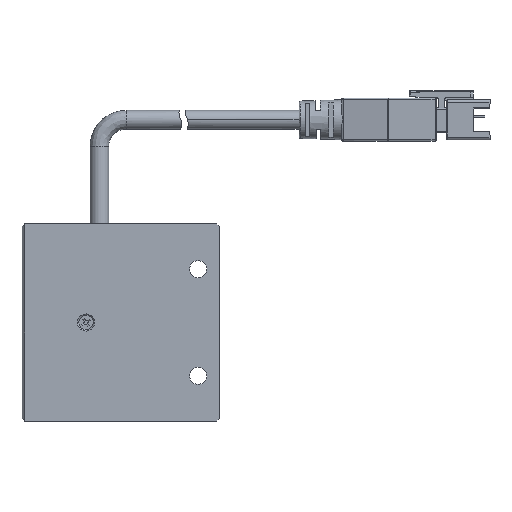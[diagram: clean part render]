
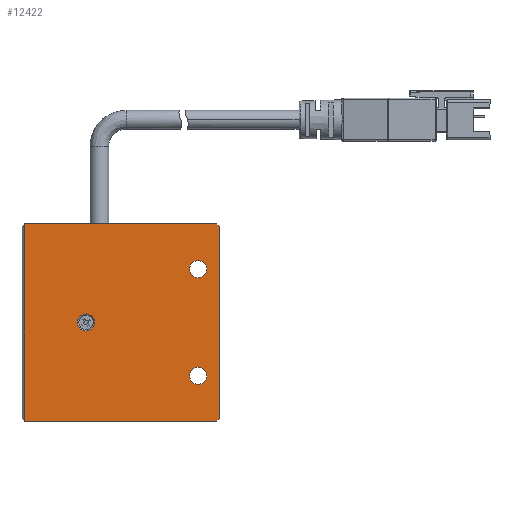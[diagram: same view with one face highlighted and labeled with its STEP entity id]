
A CAD part, top view. The second image highlights one B-rep face of the part: STEP entity #12422.
In plain terms, the highlighted planar face has unit normal (0, 0, 1).
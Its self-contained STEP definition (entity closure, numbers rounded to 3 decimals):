
#7 = CARTESIAN_POINT ( 'NONE',  ( 20.1, 10., 13. ) ) ;
#87 = CARTESIAN_POINT ( 'NONE',  ( 18.5, 10., 13. ) ) ;
#232 = VECTOR ( 'NONE', #11547, 1000. ) ;
#299 = DIRECTION ( 'NONE',  ( 0., 1., 0. ) ) ;
#377 = DIRECTION ( 'NONE',  ( 1., 0., 0. ) ) ;
#397 = CIRCLE ( 'NONE', #1273, 1.6 ) ;
#401 = CARTESIAN_POINT ( 'NONE',  ( 22., 18.5, 13. ) ) ;
#1273 = AXIS2_PLACEMENT_3D ( 'NONE', #15095, #15143, #11113 ) ;
#1283 = LINE ( 'NONE', #11441, #4910 ) ;
#1313 = ORIENTED_EDGE ( 'NONE', *, *, #10551, .T. ) ;
#1399 = VERTEX_POINT ( 'NONE', #11585 ) ;
#1411 = EDGE_CURVE ( 'NONE', #8337, #12259, #12022, .T. ) ;
#1569 = ORIENTED_EDGE ( 'NONE', *, *, #9817, .T. ) ;
#1772 = DIRECTION ( 'NONE',  ( 1., 0., 0. ) ) ;
#1981 = VECTOR ( 'NONE', #8360, 1000. ) ;
#2008 = CARTESIAN_POINT ( 'NONE',  ( 20.25, -20.25, 13. ) ) ;
#2158 = FACE_BOUND ( 'NONE', #6049, .T. ) ;
#2238 = VECTOR ( 'NONE', #10111, 1000. ) ;
#2454 = AXIS2_PLACEMENT_3D ( 'NONE', #5552, #11813, #377 ) ;
#2574 = DIRECTION ( 'NONE',  ( 1., 0., 0. ) ) ;
#2795 = ORIENTED_EDGE ( 'NONE', *, *, #1411, .F. ) ;
#3409 = VERTEX_POINT ( 'NONE', #7045 ) ;
#3862 = VERTEX_POINT ( 'NONE', #14116 ) ;
#3998 = CIRCLE ( 'NONE', #8904, 1.6 ) ;
#4570 = EDGE_CURVE ( 'NONE', #13443, #6343, #11582, .T. ) ;
#4798 = CARTESIAN_POINT ( 'NONE',  ( 22., -18.5, 13. ) ) ;
#4818 = DIRECTION ( 'NONE',  ( 1., 0., 0. ) ) ;
#4910 = VECTOR ( 'NONE', #7574, 1000. ) ;
#4957 = EDGE_CURVE ( 'NONE', #3862, #13443, #11193, .T. ) ;
#5552 = CARTESIAN_POINT ( 'NONE',  ( 0., 0., 13. ) ) ;
#5676 = CARTESIAN_POINT ( 'NONE',  ( -14., 18.5, 13. ) ) ;
#5870 = CARTESIAN_POINT ( 'NONE',  ( -2.5, 0., 13. ) ) ;
#5874 = CARTESIAN_POINT ( 'NONE',  ( 16.9, 10., 13. ) ) ;
#5983 = AXIS2_PLACEMENT_3D ( 'NONE', #9866, #13745, #11094 ) ;
#6049 = EDGE_LOOP ( 'NONE', ( #14141, #13588 ) ) ;
#6343 = VERTEX_POINT ( 'NONE', #5676 ) ;
#6547 = CIRCLE ( 'NONE', #5983, 1.6 ) ;
#6577 = EDGE_LOOP ( 'NONE', ( #15884, #10517 ) ) ;
#6840 = CARTESIAN_POINT ( 'NONE',  ( -14.5, 18.5, 13. ) ) ;
#6947 = EDGE_CURVE ( 'NONE', #1399, #3862, #8463, .T. ) ;
#7022 = DIRECTION ( 'NONE',  ( -1., 0., 0. ) ) ;
#7024 = DIRECTION ( 'NONE',  ( 0., 0., 1. ) ) ;
#7045 = CARTESIAN_POINT ( 'NONE',  ( -0.9, 0., 13. ) ) ;
#7067 = EDGE_CURVE ( 'NONE', #14327, #3409, #7651, .T. ) ;
#7400 = CARTESIAN_POINT ( 'NONE',  ( -2.5, 0., 13. ) ) ;
#7574 = DIRECTION ( 'NONE',  ( 0., -1., 0. ) ) ;
#7651 = CIRCLE ( 'NONE', #14436, 1.6 ) ;
#7807 = VECTOR ( 'NONE', #7022, 1000. ) ;
#7895 = FACE_BOUND ( 'NONE', #13643, .T. ) ;
#8175 = CARTESIAN_POINT ( 'NONE',  ( 18.5, 10., 13. ) ) ;
#8186 = ORIENTED_EDGE ( 'NONE', *, *, #6947, .T. ) ;
#8235 = DIRECTION ( 'NONE',  ( 1., 0., 0. ) ) ;
#8337 = VERTEX_POINT ( 'NONE', #5874 ) ;
#8360 = DIRECTION ( 'NONE',  ( 0.707, 0.707, 0. ) ) ;
#8463 = LINE ( 'NONE', #11700, #14816 ) ;
#8652 = AXIS2_PLACEMENT_3D ( 'NONE', #8175, #7024, #8235 ) ;
#8791 = EDGE_CURVE ( 'NONE', #12259, #8337, #15345, .T. ) ;
#8904 = AXIS2_PLACEMENT_3D ( 'NONE', #7400, #11222, #4818 ) ;
#9003 = DIRECTION ( 'NONE',  ( 0., 0., 1. ) ) ;
#9320 = CARTESIAN_POINT ( 'NONE',  ( 16.9, -10., 13. ) ) ;
#9369 = EDGE_CURVE ( 'NONE', #3409, #14327, #3998, .T. ) ;
#9376 = DIRECTION ( 'NONE',  ( 0., 0., 1. ) ) ;
#9817 = EDGE_CURVE ( 'NONE', #13758, #1399, #14075, .T. ) ;
#9866 = CARTESIAN_POINT ( 'NONE',  ( 18.5, -10., 13. ) ) ;
#9885 = CARTESIAN_POINT ( 'NONE',  ( -4.1, 0., 13. ) ) ;
#10111 = DIRECTION ( 'NONE',  ( 1., 0., 0. ) ) ;
#10517 = ORIENTED_EDGE ( 'NONE', *, *, #7067, .F. ) ;
#10551 = EDGE_CURVE ( 'NONE', #6343, #13958, #1283, .T. ) ;
#11034 = ORIENTED_EDGE ( 'NONE', *, *, #14273, .T. ) ;
#11094 = DIRECTION ( 'NONE',  ( 1., 0., 0. ) ) ;
#11113 = DIRECTION ( 'NONE',  ( 1., 0., 0. ) ) ;
#11175 = ORIENTED_EDGE ( 'NONE', *, *, #4570, .T. ) ;
#11193 = LINE ( 'NONE', #16396, #232 ) ;
#11222 = DIRECTION ( 'NONE',  ( 0., 0., 1. ) ) ;
#11441 = CARTESIAN_POINT ( 'NONE',  ( -14., -18.5, 13. ) ) ;
#11547 = DIRECTION ( 'NONE',  ( -0.707, 0.707, 0. ) ) ;
#11582 = LINE ( 'NONE', #6840, #7807 ) ;
#11585 = CARTESIAN_POINT ( 'NONE',  ( 22.5, -18., 13. ) ) ;
#11700 = CARTESIAN_POINT ( 'NONE',  ( 22.5, 18.5, 13. ) ) ;
#11813 = DIRECTION ( 'NONE',  ( 0., 0., 1. ) ) ;
#11939 = AXIS2_PLACEMENT_3D ( 'NONE', #87, #9003, #2574 ) ;
#12022 = CIRCLE ( 'NONE', #11939, 1.6 ) ;
#12154 = EDGE_CURVE ( 'NONE', #15813, #13516, #6547, .T. ) ;
#12259 = VERTEX_POINT ( 'NONE', #7 ) ;
#12422 = ADVANCED_FACE ( 'NONE', ( #13670, #2158, #7895, #16454 ), #12935, .T. ) ;
#12486 = CARTESIAN_POINT ( 'NONE',  ( -14., -18.5, 13. ) ) ;
#12935 = PLANE ( 'NONE',  #2454 ) ;
#13427 = EDGE_LOOP ( 'NONE', ( #11034, #1569, #8186, #14849, #11175, #1313 ) ) ;
#13443 = VERTEX_POINT ( 'NONE', #401 ) ;
#13516 = VERTEX_POINT ( 'NONE', #9320 ) ;
#13588 = ORIENTED_EDGE ( 'NONE', *, *, #12154, .F. ) ;
#13643 = EDGE_LOOP ( 'NONE', ( #2795, #14276 ) ) ;
#13670 = FACE_BOUND ( 'NONE', #6577, .T. ) ;
#13745 = DIRECTION ( 'NONE',  ( 0., 0., 1. ) ) ;
#13758 = VERTEX_POINT ( 'NONE', #4798 ) ;
#13958 = VERTEX_POINT ( 'NONE', #12486 ) ;
#14075 = LINE ( 'NONE', #2008, #1981 ) ;
#14116 = CARTESIAN_POINT ( 'NONE',  ( 22.5, 18., 13. ) ) ;
#14141 = ORIENTED_EDGE ( 'NONE', *, *, #14255, .F. ) ;
#14255 = EDGE_CURVE ( 'NONE', #13516, #15813, #397, .T. ) ;
#14273 = EDGE_CURVE ( 'NONE', #13958, #13758, #14516, .T. ) ;
#14276 = ORIENTED_EDGE ( 'NONE', *, *, #8791, .F. ) ;
#14327 = VERTEX_POINT ( 'NONE', #9885 ) ;
#14436 = AXIS2_PLACEMENT_3D ( 'NONE', #5870, #9376, #1772 ) ;
#14516 = LINE ( 'NONE', #16378, #2238 ) ;
#14816 = VECTOR ( 'NONE', #299, 1000. ) ;
#14849 = ORIENTED_EDGE ( 'NONE', *, *, #4957, .T. ) ;
#15095 = CARTESIAN_POINT ( 'NONE',  ( 18.5, -10., 13. ) ) ;
#15143 = DIRECTION ( 'NONE',  ( 0., 0., 1. ) ) ;
#15345 = CIRCLE ( 'NONE', #8652, 1.6 ) ;
#15813 = VERTEX_POINT ( 'NONE', #15920 ) ;
#15884 = ORIENTED_EDGE ( 'NONE', *, *, #9369, .F. ) ;
#15920 = CARTESIAN_POINT ( 'NONE',  ( 20.1, -10., 13. ) ) ;
#16378 = CARTESIAN_POINT ( 'NONE',  ( -14.5, -18.5, 13. ) ) ;
#16396 = CARTESIAN_POINT ( 'NONE',  ( 20.25, 20.25, 13. ) ) ;
#16454 = FACE_OUTER_BOUND ( 'NONE', #13427, .T. ) ;
